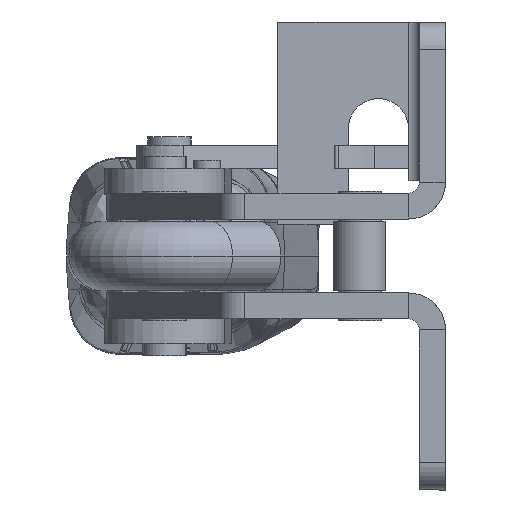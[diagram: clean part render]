
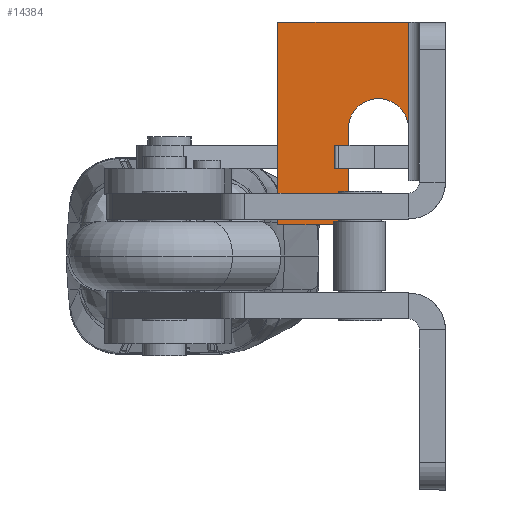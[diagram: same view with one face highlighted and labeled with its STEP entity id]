
A CAD part, left-side view. The second image highlights one B-rep face of the part: STEP entity #14384.
In plain terms, the highlighted planar face has unit normal (-1, 0, 0) as drawn and (1, 0, 0) by its records, which use the part's own axes.
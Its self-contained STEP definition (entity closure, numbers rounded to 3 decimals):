
#269 = DIRECTION ( 'NONE',  ( -1., 0., 0. ) ) ;
#501 = EDGE_CURVE ( 'NONE', #20797, #12127, #3629, .T. ) ;
#2248 = VECTOR ( 'NONE', #20986, 1000. ) ;
#2429 = AXIS2_PLACEMENT_3D ( 'NONE', #20375, #8378, #22395 ) ;
#2484 = ORIENTED_EDGE ( 'NONE', *, *, #9842, .F. ) ;
#2587 = CIRCLE ( 'NONE', #2429, 5.497 ) ;
#3228 = EDGE_CURVE ( 'NONE', #15405, #9045, #8861, .T. ) ;
#3557 = CARTESIAN_POINT ( 'NONE',  ( -65.25, 35.376, -36. ) ) ;
#3629 = LINE ( 'NONE', #22773, #14873 ) ;
#3777 = AXIS2_PLACEMENT_3D ( 'NONE', #10222, #269, #14250 ) ;
#4274 = EDGE_LOOP ( 'NONE', ( #23108, #20782, #2484, #7988, #10530, #15727 ) ) ;
#5175 = CARTESIAN_POINT ( 'NONE',  ( -65.25, 46.37, 1. ) ) ;
#6486 = CARTESIAN_POINT ( 'NONE',  ( -65.25, 59.25, 1. ) ) ;
#6613 = EDGE_CURVE ( 'NONE', #9045, #14095, #12871, .T. ) ;
#6643 = DIRECTION ( 'NONE',  ( 0., -1., 0. ) ) ;
#7984 = CARTESIAN_POINT ( 'NONE',  ( -65.25, 35.376, -16.503 ) ) ;
#7988 = ORIENTED_EDGE ( 'NONE', *, *, #501, .F. ) ;
#8109 = CARTESIAN_POINT ( 'NONE',  ( -65.25, 35.376, 29.268 ) ) ;
#8378 = DIRECTION ( 'NONE',  ( 1., 0., 0. ) ) ;
#8859 = LINE ( 'NONE', #19286, #18898 ) ;
#8861 = LINE ( 'NONE', #5175, #22979 ) ;
#9045 = VERTEX_POINT ( 'NONE', #14121 ) ;
#9842 = EDGE_CURVE ( 'NONE', #12127, #10246, #13754, .T. ) ;
#10222 = CARTESIAN_POINT ( 'NONE',  ( -65.25, -12., 29.268 ) ) ;
#10246 = VERTEX_POINT ( 'NONE', #7984 ) ;
#10530 = ORIENTED_EDGE ( 'NONE', *, *, #13715, .F. ) ;
#12127 = VERTEX_POINT ( 'NONE', #3557 ) ;
#12871 = LINE ( 'NONE', #14961, #2248 ) ;
#13715 = EDGE_CURVE ( 'NONE', #14095, #20797, #8859, .T. ) ;
#13754 = LINE ( 'NONE', #8109, #19023 ) ;
#14095 = VERTEX_POINT ( 'NONE', #6486 ) ;
#14121 = CARTESIAN_POINT ( 'NONE',  ( -65.25, 46.37, 1. ) ) ;
#14250 = DIRECTION ( 'NONE',  ( 0., -1., 0. ) ) ;
#14384 = ADVANCED_FACE ( 'NONE', ( #23908 ), #24233, .F. ) ;
#14423 = EDGE_CURVE ( 'NONE', #10246, #15405, #2587, .T. ) ;
#14873 = VECTOR ( 'NONE', #6643, 1000. ) ;
#14961 = CARTESIAN_POINT ( 'NONE',  ( -65.25, 59.25, 1. ) ) ;
#15405 = VERTEX_POINT ( 'NONE', #20922 ) ;
#15727 = ORIENTED_EDGE ( 'NONE', *, *, #6613, .F. ) ;
#18898 = VECTOR ( 'NONE', #21296, 1000. ) ;
#19023 = VECTOR ( 'NONE', #20108, 1000. ) ;
#19286 = CARTESIAN_POINT ( 'NONE',  ( -65.25, 59.25, -36. ) ) ;
#20108 = DIRECTION ( 'NONE',  ( 0., 0., 1. ) ) ;
#20375 = CARTESIAN_POINT ( 'NONE',  ( -65.25, 40.873, -16.503 ) ) ;
#20782 = ORIENTED_EDGE ( 'NONE', *, *, #14423, .F. ) ;
#20797 = VERTEX_POINT ( 'NONE', #23490 ) ;
#20922 = CARTESIAN_POINT ( 'NONE',  ( -65.25, 46.37, -16.503 ) ) ;
#20986 = DIRECTION ( 'NONE',  ( 0., 1., 0. ) ) ;
#21175 = DIRECTION ( 'NONE',  ( 0., 0., 1. ) ) ;
#21296 = DIRECTION ( 'NONE',  ( 0., 0., -1. ) ) ;
#22395 = DIRECTION ( 'NONE',  ( 0., 1., 0. ) ) ;
#22773 = CARTESIAN_POINT ( 'NONE',  ( -65.25, -56., -36. ) ) ;
#22979 = VECTOR ( 'NONE', #21175, 1000. ) ;
#23108 = ORIENTED_EDGE ( 'NONE', *, *, #3228, .F. ) ;
#23490 = CARTESIAN_POINT ( 'NONE',  ( -65.25, 59.25, -36. ) ) ;
#23908 = FACE_OUTER_BOUND ( 'NONE', #4274, .T. ) ;
#24233 = PLANE ( 'NONE',  #3777 ) ;
